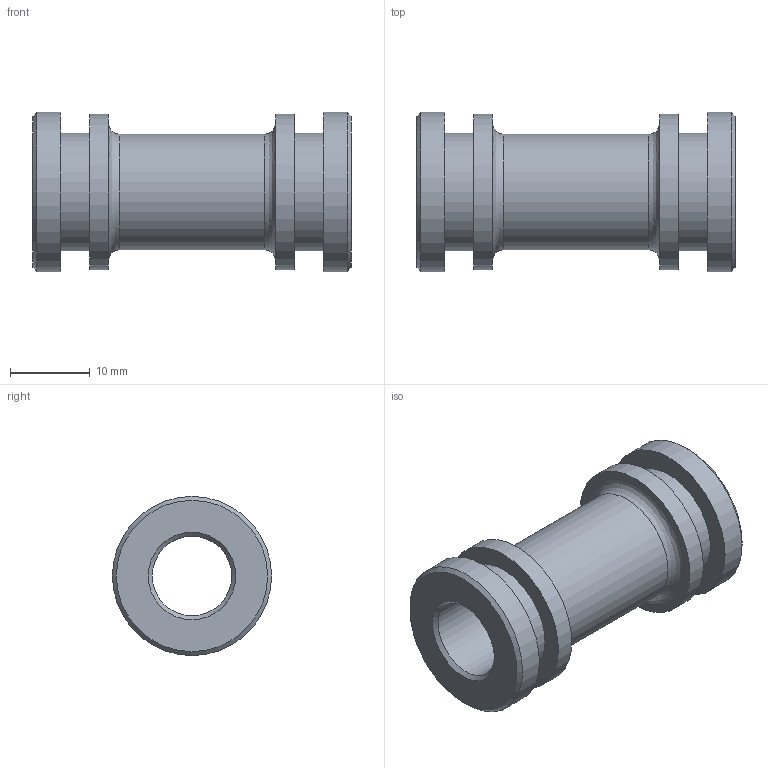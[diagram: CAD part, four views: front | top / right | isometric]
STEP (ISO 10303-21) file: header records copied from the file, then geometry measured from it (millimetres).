
FILE_DESCRIPTION((''),'2;1');
FILE_NAME('N:\CAD\ARCHIV\5350 (-999)\Standardhülsen\5350.010.040\Kundenteil 3D\5350.010.40 Kunden.stp','2008-12-04T10:04:01',('HWalkhoff'),(''),'Autodesk Inventor 2009','Autodesk Inventor 2009','');
FILE_SCHEMA(('AUTOMOTIVE_DESIGN { 1 0 10303 214 1 1 1 1 }'));
Length unit declared in the file: millimetre
Products named in the file (1): Hülse für Kunden
Bounding box: 40 x 20 x 20 mm (x, y, z)
Volume: 5201.9 mm3; surface area: 4451.6 mm2
Topology: 1 solids, 1 shells, 22 faces, 36 edges, 22 vertices
Faces by surface type: cylinder 8, plane 8, cone 4, bspline 2
Full cylindrical faces by diameter (mm): 10 x1, 14.5 x1, 14.76 x2, 19.5 x2, 20 x2
Entity records: 554 total; most frequent: CARTESIAN_POINT 155, DIRECTION 86, ORIENTED_EDGE 44, EDGE_LOOP 44, AXIS2_PLACEMENT_3D 43, VERTEX_POINT 22, CIRCLE 22, EDGE_CURVE 22
